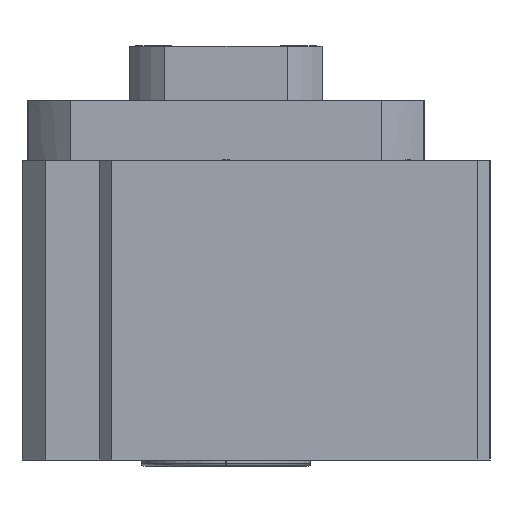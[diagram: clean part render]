
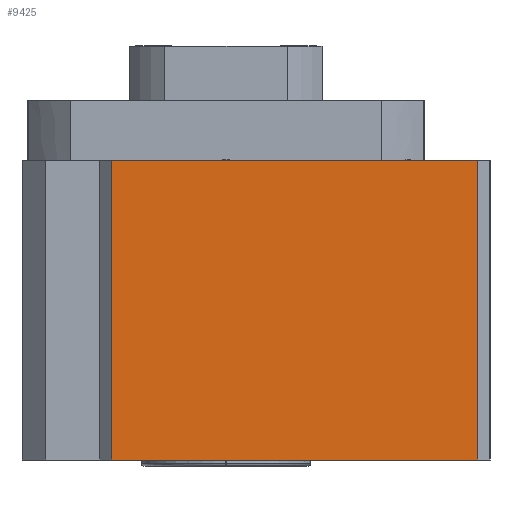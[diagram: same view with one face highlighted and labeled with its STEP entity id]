
A CAD part, left-side view. The second image highlights one B-rep face of the part: STEP entity #9425.
In plain terms, the highlighted planar face has unit normal (-1, 0, 0).
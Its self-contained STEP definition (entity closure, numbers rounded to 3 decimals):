
#9386=CARTESIAN_POINT('',(-30.,-21.,-25.));
#9387=VERTEX_POINT('Vertex169',#9386);
#9388=CARTESIAN_POINT('',(-30.,-21.,0.));
#9389=VERTEX_POINT('Vertex168',#9388);
#9390=CARTESIAN_POINT('',(-30.,-21.,-12.5));
#9391=DIRECTION('',(0.,0.,1.));
#9392=VECTOR('',#9391,1.);
#9393=LINE('nurbsCrv168',#9390,#9392);
#9394=EDGE_CURVE('Edge168',#9387,#9389,#9393,.T.);
#9395=ORIENTED_EDGE('Edgeuse168',*,*,#9394,.T.);
#9396=CARTESIAN_POINT('',(-30.,9.5,0.));
#9397=VERTEX_POINT('Vertex170',#9396);
#9398=CARTESIAN_POINT('',(-30.,-5.75,0.));
#9399=DIRECTION('',(0.,1.,0.));
#9400=VECTOR('',#9399,1.);
#9401=LINE('nurbsCrv169',#9398,#9400);
#9402=EDGE_CURVE('Edge169',#9389,#9397,#9401,.T.);
#9403=ORIENTED_EDGE('Edgeuse169',*,*,#9402,.T.);
#9404=CARTESIAN_POINT('',(-30.,9.5,-25.));
#9405=VERTEX_POINT('Vertex171',#9404);
#9406=CARTESIAN_POINT('',(-30.,9.5,-12.5));
#9407=DIRECTION('',(0.,0.,-1.));
#9408=VECTOR('',#9407,1.);
#9409=LINE('nurbsCrv170',#9406,#9408);
#9410=EDGE_CURVE('Edge170',#9397,#9405,#9409,.T.);
#9411=ORIENTED_EDGE('Edgeuse170',*,*,#9410,.T.);
#9412=CARTESIAN_POINT('',(-30.,-5.75,-25.));
#9413=DIRECTION('',(0.,-1.,0.));
#9414=VECTOR('',#9413,1.);
#9415=LINE('nurbsCrv171',#9412,#9414);
#9416=EDGE_CURVE('Edge171',#9405,#9387,#9415,.T.);
#9417=ORIENTED_EDGE('Edgeuse171',*,*,#9416,.T.);
#9418=EDGE_LOOP('',(#9395,#9403,#9411,#9417));
#9419=FACE_OUTER_BOUND('',#9418,.T.);
#9420=CARTESIAN_POINT('',(-30.,-5.75,-12.5));
#9421=DIRECTION('',(-1.,0.,0.));
#9422=DIRECTION('',(0.,0.,1.));
#9423=AXIS2_PLACEMENT_3D('',#9420,#9421,#9422);
#9424=PLANE('nurbsSrf30',#9423);
#9425=ADVANCED_FACE('Face30',(#9419),#9424,.T.);
